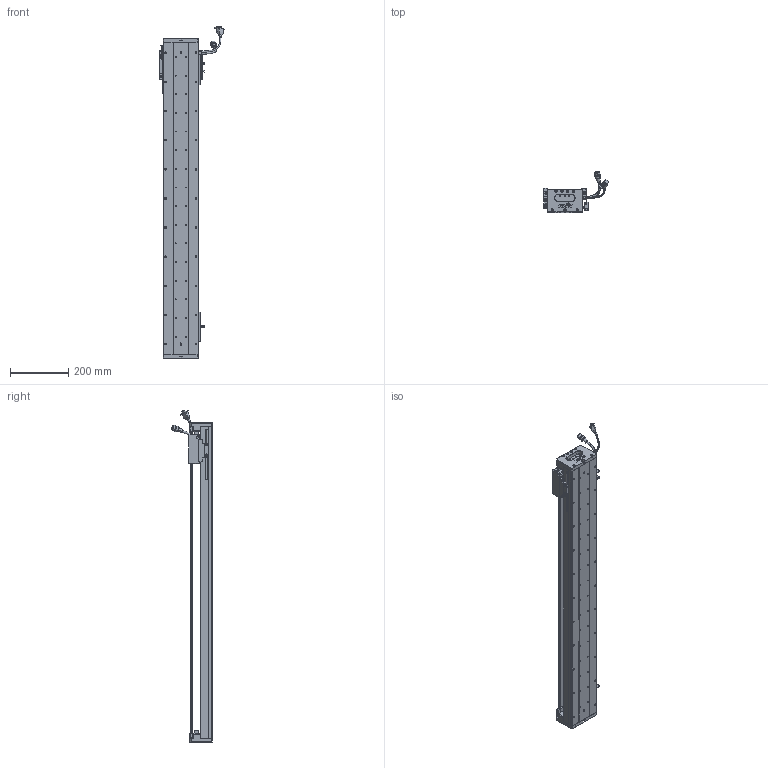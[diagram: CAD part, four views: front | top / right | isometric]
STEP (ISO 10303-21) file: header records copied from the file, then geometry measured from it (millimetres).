
FILE_DESCRIPTION (( 'STEP AP203' ), '1' );
FILE_NAME ('Z1-RY120D-1-L500-B-K.SLDASM_0900.step', '2021-05-17T03:45:47', ( '盈信电脑' ), ( '东莞市道滘镇水果街19号' ), 'SwSTEP 2.0', 'SolidWorks 2016', '' );
FILE_SCHEMA (( 'CONFIG_CONTROL_DESIGN' ));
Length unit declared in the file: millimetre
Products named in the file (37): Z-RY120D詩湍狟揤裔; HARNESS; RY100FB-遵嫖萇覜茼え; LABEL; 覜茼ん672; Z-120詩湍傷裔啣; SCREW-M1.6-2; 140蚥薯蝶輸; PBU_SHEET; Z1-RY120-L500詩湍100mm遵_0900; SEAL-Part-1; SCREW-M1.7-1; HARNESS-Part-1; 080黍杅芛假蚾釱21遴; SCALE; 榋妏寠巭燃_暯_M2_2; Z1-RY120-500-倰第菁釱_0900; SCREW-M1.6-1; SCREW-M1.7; Z1-RY120铝滑块（21款）; SCALE-Part-2; 672嫖萇羲壽假蚾釱; PSLH080_PSLF2; SEAL; SCREW-M1.6-3; 140雄赽晤鎢ん堤盄; HARNESS-Part-2; Z-RY120D詩湍奻揤裔; 120-Z-臏賑輸盄裔(21遴); SHIELDPLATE; LABEL-Part-1; HOLDER0; SCALE-Part-1; COVER-Part-1; COVER; Z1-RY120D-1-L500-B-K.SLDASM_0900; SCREW-M1.6
Assembly tree (43 placements, depth 4):
  Z1-RY120D-1-L500-B-K.SLDASM_0900
    Z1-RY120-500-倰第菁釱_0900
    覜茼ん672  x3
    672嫖萇羲壽假蚾釱  x2
    Z1-RY120铝滑块（21款）
    PSLH080_PSLF2
      SCALE
        SCALE-Part-1
        SCALE-Part-2
      HARNESS
        HARNESS-Part-1
        HARNESS-Part-2
      LABEL
        LABEL-Part-1
      COVER
        COVER-Part-1
      SEAL
        SEAL-Part-1
      榋妏寠巭燃_暯_M2_2
      SHIELDPLATE
      SCREW-M1.7
      SCREW-M1.7-1
      PBU_SHEET
      SCREW-M1.6
      SCREW-M1.6-1
      SCREW-M1.6-2
      SCREW-M1.6-3
      HOLDER0
    080黍杅芛假蚾釱21遴
    120-Z-臏賑輸盄裔(21遴)
    140雄赽晤鎢ん堤盄
    140蚥薯蝶輸  x2
    RY100FB-遵嫖萇覜茼え
    Z-120詩湍傷裔啣  x2
    Z-RY120D詩湍奻揤裔  x2
    Z-RY120D詩湍狟揤裔  x2
    Z1-RY120-L500詩湍100mm遵_0900
Bounding box: 222.87 x 140.94 x 1139 mm (x, y, z)
Volume: 2851332.4 mm3; surface area: 1002653 mm2
Topology: 38 solids, 38 shells, 2767 faces, 7514 edges, 4754 vertices
Faces by surface type: cylinder 1262, plane 1119, cone 264, torus 69, bspline 53
Entity records: 83841 total; most frequent: CARTESIAN_POINT 22900, ORIENTED_EDGE 12028, DIRECTION 11662, EDGE_CURVE 6014, AXIS2_PLACEMENT_3D 4244, VERTEX_POINT 3874, VECTOR 3174, LINE 3174
